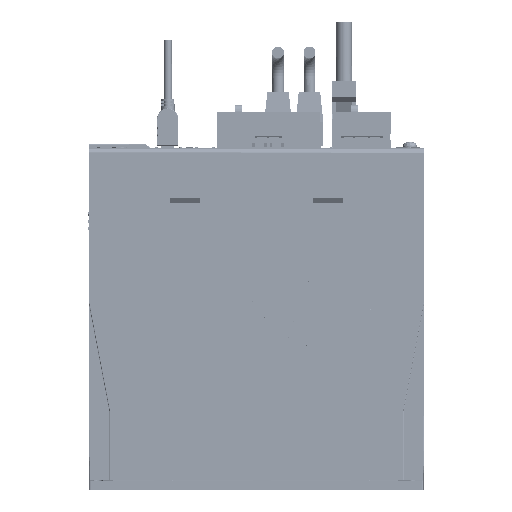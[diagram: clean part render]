
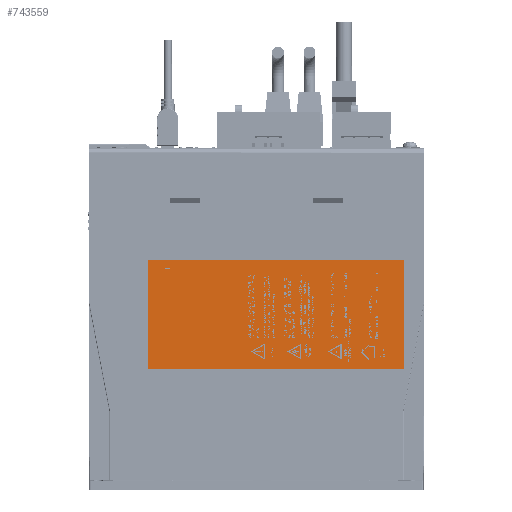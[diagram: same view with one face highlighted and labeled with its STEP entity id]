
A CAD part, left-side view. The second image highlights one B-rep face of the part: STEP entity #743559.
In plain terms, the highlighted planar face has unit normal (-1, 0, 0).
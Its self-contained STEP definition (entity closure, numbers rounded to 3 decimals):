
#724401=CARTESIAN_POINT('Line Origine',(-327.455,82.166,-47.9)) ;
#724405=CARTESIAN_POINT('Vertex',(-327.455,146.666,-47.9)) ;
#724407=CARTESIAN_POINT('Vertex',(-327.455,17.666,-47.9)) ;
#724432=CARTESIAN_POINT('Line Origine',(-327.455,17.666,-75.4)) ;
#724436=CARTESIAN_POINT('Vertex',(-327.455,17.666,-102.9)) ;
#724456=CARTESIAN_POINT('Line Origine',(-327.455,82.166,-102.9)) ;
#724460=CARTESIAN_POINT('Vertex',(-327.455,146.666,-102.9)) ;
#724480=CARTESIAN_POINT('Line Origine',(-327.455,146.666,-75.4)) ;
#743548=CARTESIAN_POINT('Axis2P3D Location',(-327.455,159.626,-108.46)) ;
#724402=DIRECTION('Vector Direction',(0.,-1.,0.)) ;
#724433=DIRECTION('Vector Direction',(0.,0.,-1.)) ;
#724457=DIRECTION('Vector Direction',(0.,1.,0.)) ;
#724481=DIRECTION('Vector Direction',(0.,0.,1.)) ;
#743549=DIRECTION('Axis2P3D Direction',(-1.,0.,0.)) ;
#743550=DIRECTION('Axis2P3D XDirection',(0.,0.,-1.)) ;
#743551=AXIS2_PLACEMENT_3D('Plane Axis2P3D',#743548,#743549,#743550) ;
#743554=ORIENTED_EDGE('',*,*,#724438,.F.) ;
#743555=ORIENTED_EDGE('',*,*,#724409,.F.) ;
#743556=ORIENTED_EDGE('',*,*,#724484,.F.) ;
#743557=ORIENTED_EDGE('',*,*,#724462,.F.) ;
#724403=VECTOR('Line Direction',#724402,1.) ;
#724434=VECTOR('Line Direction',#724433,1.) ;
#724458=VECTOR('Line Direction',#724457,1.) ;
#724482=VECTOR('Line Direction',#724481,1.) ;
#743559=ADVANCED_FACE('MANIFOLD_SOLID_BREP #3088',(#743558),#743552,.T.) ;
#724409=EDGE_CURVE('',#724406,#724408,#724404,.T.) ;
#724438=EDGE_CURVE('',#724408,#724437,#724435,.T.) ;
#724462=EDGE_CURVE('',#724437,#724461,#724459,.T.) ;
#724484=EDGE_CURVE('',#724461,#724406,#724483,.T.) ;
#743553=EDGE_LOOP('',(#743554,#743555,#743556,#743557)) ;
#743558=FACE_OUTER_BOUND('',#743553,.T.) ;
#724404=LINE('Line',#724401,#724403) ;
#724435=LINE('Line',#724432,#724434) ;
#724459=LINE('Line',#724456,#724458) ;
#724483=LINE('Line',#724480,#724482) ;
#743552=PLANE('Plane',#743551) ;
#724406=VERTEX_POINT('',#724405) ;
#724408=VERTEX_POINT('',#724407) ;
#724437=VERTEX_POINT('',#724436) ;
#724461=VERTEX_POINT('',#724460) ;
